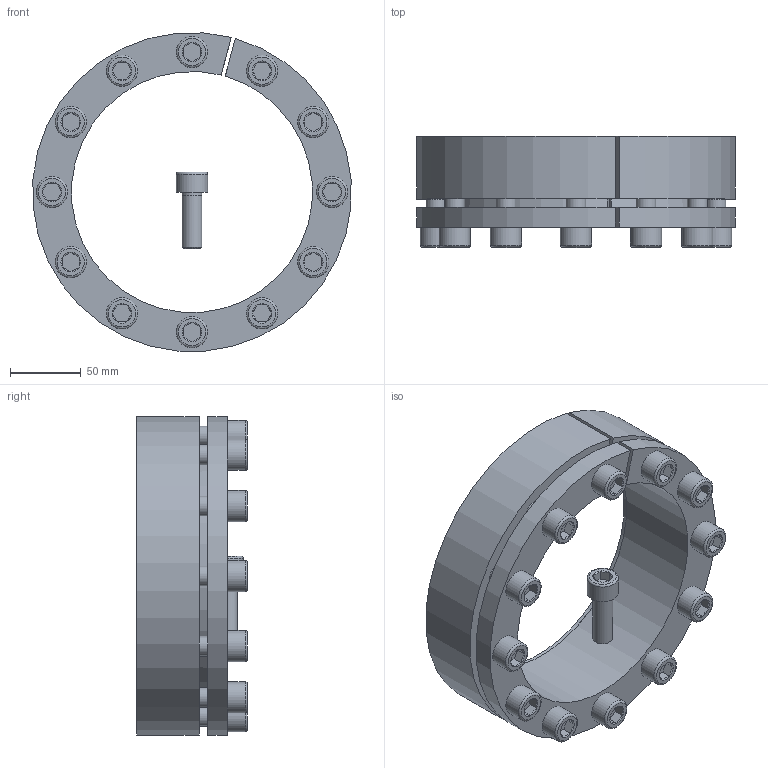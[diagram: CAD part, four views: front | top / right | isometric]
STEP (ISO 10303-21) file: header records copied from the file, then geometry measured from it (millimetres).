
FILE_DESCRIPTION( ( 'Unknown' ), '1' );
FILE_NAME( 'C:/Dokumente und Einstellungen/Sven/Desktop/homepage/cad - homepage/KBS13/KBS 13 - 170 x 225.stp', 'Unknown', ( 'Unknown' ), ( 'Unknown' ), 'XStep 1.0', 'Unknown', ' ' );
FILE_SCHEMA( ( 'automotive_design' ) );
Length unit declared in the file: millimetre
Products named in the file (3): Assem1; KBS 13 - 170 x 225; ISO EN DIN 4762 M14x40
Bounding box: 224.28 x 78 x 224.27 mm (x, y, z)
Volume: 1929397.6 mm3; surface area: 381809.2 mm2
Topology: 15 solids, 15 shells, 397 faces, 809 edges, 494 vertices
Faces by surface type: plane 170, cylinder 106, cone 95, torus 26
Full cylindrical faces by diameter (mm): 12 x13, 14 x74, 22 x13
Entity records: 2170 total; most frequent: CARTESIAN_POINT 349, DIRECTION 328, ORIENTED_EDGE 226, AXIS2_PLACEMENT_3D 150, EDGE_LOOP 144, EDGE_CURVE 113, FACE_OUTER_BOUND 91, VERTEX_POINT 91
